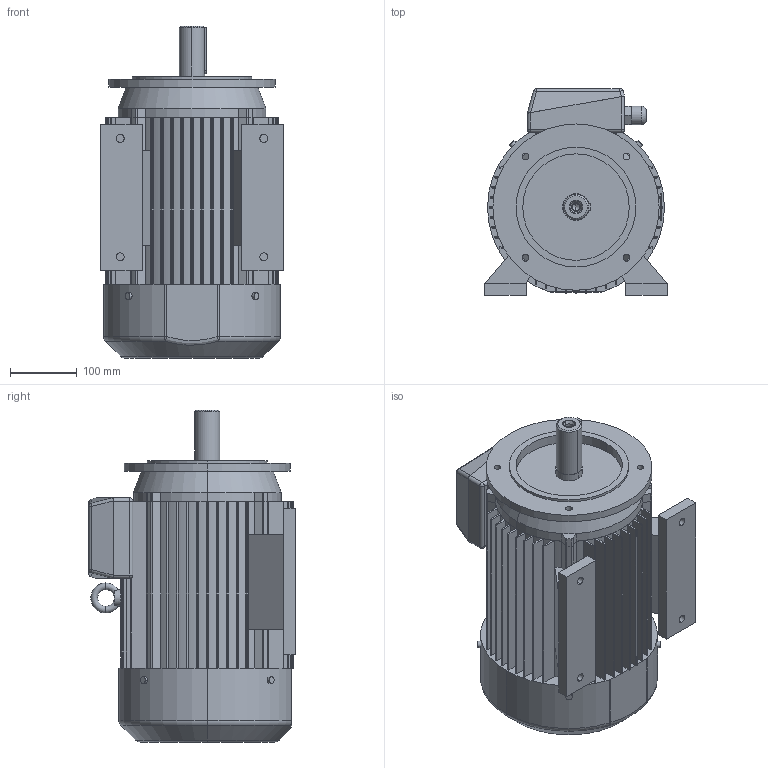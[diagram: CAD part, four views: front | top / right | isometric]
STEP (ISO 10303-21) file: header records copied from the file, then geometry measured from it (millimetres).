
FILE_DESCRIPTION (( 'STEP AP203' ), '1' );
FILE_NAME ('2SIEL132M4,6A,6B-B34-C1.STEP', '2013-01-07T13:24:55', ( 'INDUKTA' ), ( 'CANTONI MOTOR' ), 'SwSTEP 2.0', 'SolidWorks 2003064', '' );
FILE_SCHEMA (( 'CONFIG_CONTROL_DESIGN' ));
Length unit declared in the file: millimetre
Products named in the file (1): 2SIEL132M4,6A,6B-B34-C1
Bounding box: 274 x 310 x 499 mm (x, y, z)
Volume: 20619096.6 mm3; surface area: 1145331.1 mm2
Topology: 14 solids, 14 shells, 422 faces, 1110 edges, 703 vertices
Faces by surface type: cylinder 196, plane 188, cone 14, torus 13, sphere 10, bspline 1
Entity records: 13818 total; most frequent: CARTESIAN_POINT 3090, DIRECTION 2330, ORIENTED_EDGE 2196, EDGE_CURVE 1098, AXIS2_PLACEMENT_3D 847, VERTEX_POINT 703, LINE 636, VECTOR 636
